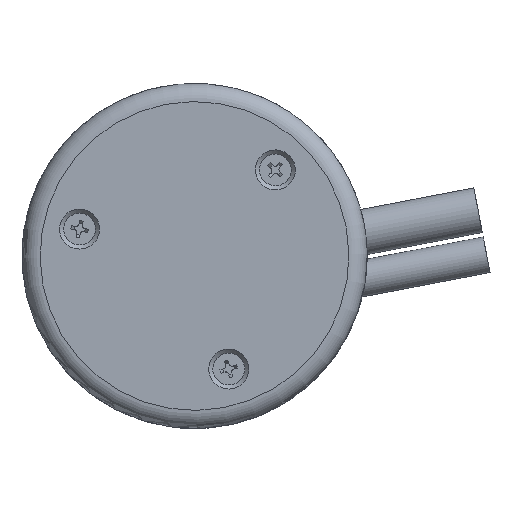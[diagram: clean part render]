
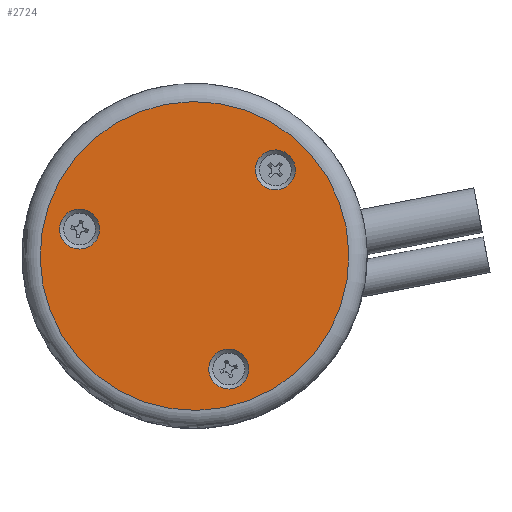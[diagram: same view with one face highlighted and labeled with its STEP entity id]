
A CAD part, front view. The second image highlights one B-rep face of the part: STEP entity #2724.
In plain terms, the highlighted planar face has unit normal (0, -1, 0).
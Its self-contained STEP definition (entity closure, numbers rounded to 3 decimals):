
#157 = CARTESIAN_POINT ( 'NONE',  ( -7.536, 0., 1.089 ) ) ;
#216 = CARTESIAN_POINT ( 'NONE',  ( -4.606, 0., 22.981 ) ) ;
#453 = FACE_OUTER_BOUND ( 'NONE', #4280, .T. ) ;
#485 = CARTESIAN_POINT ( 'NONE',  ( -13.5, 0., 13.5 ) ) ;
#499 = CARTESIAN_POINT ( 'NONE',  ( -23.958, 0., 16.494 ) ) ;
#606 = DIRECTION ( 'NONE',  ( 1., 0., 0.014 ) ) ;
#972 = EDGE_LOOP ( 'NONE', ( #3285 ) ) ;
#1237 = DIRECTION ( 'NONE',  ( 0., -1., 0. ) ) ;
#1329 = PLANE ( 'NONE',  #1375 ) ;
#1375 = AXIS2_PLACEMENT_3D ( 'NONE', #485, #5512, #3162 ) ;
#1413 = EDGE_CURVE ( 'NONE', #4101, #4101, #3513, .T. ) ;
#1434 = AXIS2_PLACEMENT_3D ( 'NONE', #216, #2489, #606 ) ;
#1782 = FACE_BOUND ( 'NONE', #4519, .T. ) ;
#1896 = VERTEX_POINT ( 'NONE', #499 ) ;
#2015 = CARTESIAN_POINT ( 'NONE',  ( -9.736, 0., 1.057 ) ) ;
#2018 = VERTEX_POINT ( 'NONE', #157 ) ;
#2213 = ORIENTED_EDGE ( 'NONE', *, *, #4135, .F. ) ;
#2474 = AXIS2_PLACEMENT_3D ( 'NONE', #4995, #1237, #3102 ) ;
#2489 = DIRECTION ( 'NONE',  ( 0., -1., 0. ) ) ;
#2645 = EDGE_CURVE ( 'NONE', #1896, #1896, #5121, .T. ) ;
#2721 = CARTESIAN_POINT ( 'NONE',  ( 3.498, 0., 13.746 ) ) ;
#2724 = ADVANCED_FACE ( 'NONE', ( #1782, #5539, #3287, #453 ), #1329, .T. ) ;
#3024 = ORIENTED_EDGE ( 'NONE', *, *, #1413, .T. ) ;
#3102 = DIRECTION ( 'NONE',  ( 1., 0., 0.014 ) ) ;
#3162 = DIRECTION ( 'NONE',  ( 1., 0., 0.014 ) ) ;
#3285 = ORIENTED_EDGE ( 'NONE', *, *, #4867, .F. ) ;
#3287 = FACE_BOUND ( 'NONE', #3715, .T. ) ;
#3513 = CIRCLE ( 'NONE', #5580, 17. ) ;
#3518 = CARTESIAN_POINT ( 'NONE',  ( -2.406, 0., 23.013 ) ) ;
#3715 = EDGE_LOOP ( 'NONE', ( #5968 ) ) ;
#3887 = DIRECTION ( 'NONE',  ( 0., -1., 0. ) ) ;
#4101 = VERTEX_POINT ( 'NONE', #2721 ) ;
#4135 = EDGE_CURVE ( 'NONE', #2018, #2018, #5687, .T. ) ;
#4280 = EDGE_LOOP ( 'NONE', ( #3024 ) ) ;
#4283 = DIRECTION ( 'NONE',  ( 1., 0., 0.014 ) ) ;
#4519 = EDGE_LOOP ( 'NONE', ( #2213 ) ) ;
#4750 = CARTESIAN_POINT ( 'NONE',  ( -13.5, 0., 13.5 ) ) ;
#4849 = DIRECTION ( 'NONE',  ( 1., 0., 0.014 ) ) ;
#4867 = EDGE_CURVE ( 'NONE', #4946, #4946, #5765, .T. ) ;
#4946 = VERTEX_POINT ( 'NONE', #3518 ) ;
#4995 = CARTESIAN_POINT ( 'NONE',  ( -26.158, 0., 16.462 ) ) ;
#5121 = CIRCLE ( 'NONE', #2474, 2.2 ) ;
#5512 = DIRECTION ( 'NONE',  ( 0., -1., 0. ) ) ;
#5539 = FACE_BOUND ( 'NONE', #972, .T. ) ;
#5580 = AXIS2_PLACEMENT_3D ( 'NONE', #4750, #5743, #4283 ) ;
#5687 = CIRCLE ( 'NONE', #5967, 2.2 ) ;
#5743 = DIRECTION ( 'NONE',  ( 0., -1., 0. ) ) ;
#5765 = CIRCLE ( 'NONE', #1434, 2.2 ) ;
#5967 = AXIS2_PLACEMENT_3D ( 'NONE', #2015, #3887, #4849 ) ;
#5968 = ORIENTED_EDGE ( 'NONE', *, *, #2645, .F. ) ;
